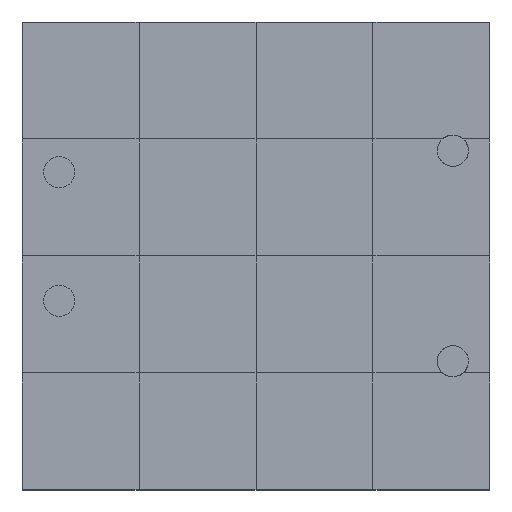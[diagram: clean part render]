
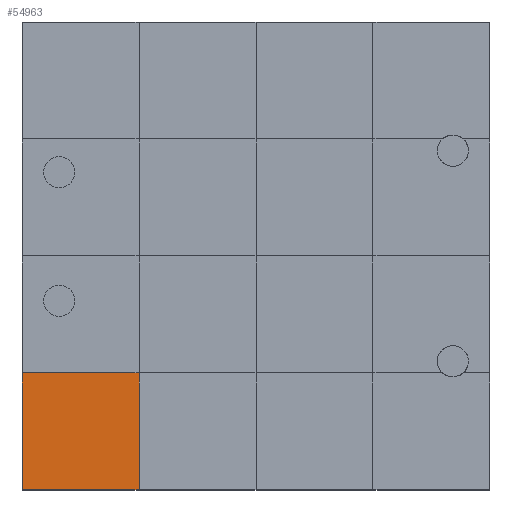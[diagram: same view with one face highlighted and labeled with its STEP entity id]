
A CAD part, top view. The second image highlights one B-rep face of the part: STEP entity #54963.
In plain terms, the highlighted planar face has unit normal (0, 0, 1).
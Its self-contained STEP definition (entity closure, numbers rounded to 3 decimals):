
#54774 = VERTEX_POINT('',#54775);
#54775 = CARTESIAN_POINT('',(0.,0.,1.5));
#54782 = PLANE('',#54783);
#54783 = AXIS2_PLACEMENT_3D('',#54784,#54785,#54786);
#54784 = CARTESIAN_POINT('',(0.,0.,0.));
#54785 = DIRECTION('',(1.,0.,-0.));
#54786 = DIRECTION('',(0.,0.,1.));
#54794 = PLANE('',#54795);
#54795 = AXIS2_PLACEMENT_3D('',#54796,#54797,#54798);
#54796 = CARTESIAN_POINT('',(0.,0.,0.));
#54797 = DIRECTION('',(-0.,1.,0.));
#54798 = DIRECTION('',(0.,0.,1.));
#54835 = VERTEX_POINT('',#54836);
#54836 = CARTESIAN_POINT('',(0.,3.,1.5));
#54862 = EDGE_CURVE('',#54774,#54835,#54863,.T.);
#54863 = SURFACE_CURVE('',#54864,(#54868,#54875),.PCURVE_S1.);
#54864 = LINE('',#54865,#54866);
#54865 = CARTESIAN_POINT('',(0.,0.,1.5));
#54866 = VECTOR('',#54867,1.);
#54867 = DIRECTION('',(-0.,1.,0.));
#54868 = PCURVE('',#54782,#54869);
#54869 = DEFINITIONAL_REPRESENTATION('',(#54870),#54874);
#54870 = LINE('',#54871,#54872);
#54871 = CARTESIAN_POINT('',(1.5,0.));
#54872 = VECTOR('',#54873,1.);
#54873 = DIRECTION('',(0.,-1.));
#54874 = ( GEOMETRIC_REPRESENTATION_CONTEXT(2) 
PARAMETRIC_REPRESENTATION_CONTEXT() REPRESENTATION_CONTEXT('2D SPACE',''
  ) );
#54875 = PCURVE('',#54876,#54881);
#54876 = PLANE('',#54877);
#54877 = AXIS2_PLACEMENT_3D('',#54878,#54879,#54880);
#54878 = CARTESIAN_POINT('',(0.,0.,1.5));
#54879 = DIRECTION('',(0.,0.,1.));
#54880 = DIRECTION('',(1.,0.,-0.));
#54881 = DEFINITIONAL_REPRESENTATION('',(#54882),#54886);
#54882 = LINE('',#54883,#54884);
#54883 = CARTESIAN_POINT('',(0.,0.));
#54884 = VECTOR('',#54885,1.);
#54885 = DIRECTION('',(0.,1.));
#54886 = ( GEOMETRIC_REPRESENTATION_CONTEXT(2) 
PARAMETRIC_REPRESENTATION_CONTEXT() REPRESENTATION_CONTEXT('2D SPACE',''
  ) );
#54915 = EDGE_CURVE('',#54774,#54916,#54918,.T.);
#54916 = VERTEX_POINT('',#54917);
#54917 = CARTESIAN_POINT('',(3.,0.,1.5));
#54918 = SURFACE_CURVE('',#54919,(#54923,#54930),.PCURVE_S1.);
#54919 = LINE('',#54920,#54921);
#54920 = CARTESIAN_POINT('',(0.,0.,1.5));
#54921 = VECTOR('',#54922,1.);
#54922 = DIRECTION('',(1.,0.,-0.));
#54923 = PCURVE('',#54794,#54924);
#54924 = DEFINITIONAL_REPRESENTATION('',(#54925),#54929);
#54925 = LINE('',#54926,#54927);
#54926 = CARTESIAN_POINT('',(1.5,0.));
#54927 = VECTOR('',#54928,1.);
#54928 = DIRECTION('',(0.,1.));
#54929 = ( GEOMETRIC_REPRESENTATION_CONTEXT(2) 
PARAMETRIC_REPRESENTATION_CONTEXT() REPRESENTATION_CONTEXT('2D SPACE',''
  ) );
#54930 = PCURVE('',#54876,#54931);
#54931 = DEFINITIONAL_REPRESENTATION('',(#54932),#54936);
#54932 = LINE('',#54933,#54934);
#54933 = CARTESIAN_POINT('',(0.,0.));
#54934 = VECTOR('',#54935,1.);
#54935 = DIRECTION('',(1.,0.));
#54936 = ( GEOMETRIC_REPRESENTATION_CONTEXT(2) 
PARAMETRIC_REPRESENTATION_CONTEXT() REPRESENTATION_CONTEXT('2D SPACE',''
  ) );
#54963 = ADVANCED_FACE('',(#54964),#54876,.T.);
#54964 = FACE_BOUND('',#54965,.T.);
#54965 = EDGE_LOOP('',(#54966,#54967,#54968,#54996));
#54966 = ORIENTED_EDGE('',*,*,#54862,.F.);
#54967 = ORIENTED_EDGE('',*,*,#54915,.T.);
#54968 = ORIENTED_EDGE('',*,*,#54969,.T.);
#54969 = EDGE_CURVE('',#54916,#54970,#54972,.T.);
#54970 = VERTEX_POINT('',#54971);
#54971 = CARTESIAN_POINT('',(3.,3.,1.5));
#54972 = SURFACE_CURVE('',#54973,(#54977,#54984),.PCURVE_S1.);
#54973 = LINE('',#54974,#54975);
#54974 = CARTESIAN_POINT('',(3.,0.,1.5));
#54975 = VECTOR('',#54976,1.);
#54976 = DIRECTION('',(-0.,1.,0.));
#54977 = PCURVE('',#54876,#54978);
#54978 = DEFINITIONAL_REPRESENTATION('',(#54979),#54983);
#54979 = LINE('',#54980,#54981);
#54980 = CARTESIAN_POINT('',(3.,0.));
#54981 = VECTOR('',#54982,1.);
#54982 = DIRECTION('',(0.,1.));
#54983 = ( GEOMETRIC_REPRESENTATION_CONTEXT(2) 
PARAMETRIC_REPRESENTATION_CONTEXT() REPRESENTATION_CONTEXT('2D SPACE',''
  ) );
#54984 = PCURVE('',#54985,#54990);
#54985 = PLANE('',#54986);
#54986 = AXIS2_PLACEMENT_3D('',#54987,#54988,#54989);
#54987 = CARTESIAN_POINT('',(3.,0.,1.5));
#54988 = DIRECTION('',(0.,0.,1.));
#54989 = DIRECTION('',(1.,0.,-0.));
#54990 = DEFINITIONAL_REPRESENTATION('',(#54991),#54995);
#54991 = LINE('',#54992,#54993);
#54992 = CARTESIAN_POINT('',(0.,0.));
#54993 = VECTOR('',#54994,1.);
#54994 = DIRECTION('',(0.,1.));
#54995 = ( GEOMETRIC_REPRESENTATION_CONTEXT(2) 
PARAMETRIC_REPRESENTATION_CONTEXT() REPRESENTATION_CONTEXT('2D SPACE',''
  ) );
#54996 = ORIENTED_EDGE('',*,*,#54997,.F.);
#54997 = EDGE_CURVE('',#54835,#54970,#54998,.T.);
#54998 = SURFACE_CURVE('',#54999,(#55003,#55010),.PCURVE_S1.);
#54999 = LINE('',#55000,#55001);
#55000 = CARTESIAN_POINT('',(0.,3.,1.5));
#55001 = VECTOR('',#55002,1.);
#55002 = DIRECTION('',(1.,0.,-0.));
#55003 = PCURVE('',#54876,#55004);
#55004 = DEFINITIONAL_REPRESENTATION('',(#55005),#55009);
#55005 = LINE('',#55006,#55007);
#55006 = CARTESIAN_POINT('',(0.,3.));
#55007 = VECTOR('',#55008,1.);
#55008 = DIRECTION('',(1.,0.));
#55009 = ( GEOMETRIC_REPRESENTATION_CONTEXT(2) 
PARAMETRIC_REPRESENTATION_CONTEXT() REPRESENTATION_CONTEXT('2D SPACE',''
  ) );
#55010 = PCURVE('',#55011,#55016);
#55011 = PLANE('',#55012);
#55012 = AXIS2_PLACEMENT_3D('',#55013,#55014,#55015);
#55013 = CARTESIAN_POINT('',(0.,3.,1.5));
#55014 = DIRECTION('',(0.,0.,1.));
#55015 = DIRECTION('',(1.,0.,-0.));
#55016 = DEFINITIONAL_REPRESENTATION('',(#55017),#55021);
#55017 = LINE('',#55018,#55019);
#55018 = CARTESIAN_POINT('',(0.,0.));
#55019 = VECTOR('',#55020,1.);
#55020 = DIRECTION('',(1.,0.));
#55021 = ( GEOMETRIC_REPRESENTATION_CONTEXT(2) 
PARAMETRIC_REPRESENTATION_CONTEXT() REPRESENTATION_CONTEXT('2D SPACE',''
  ) );
